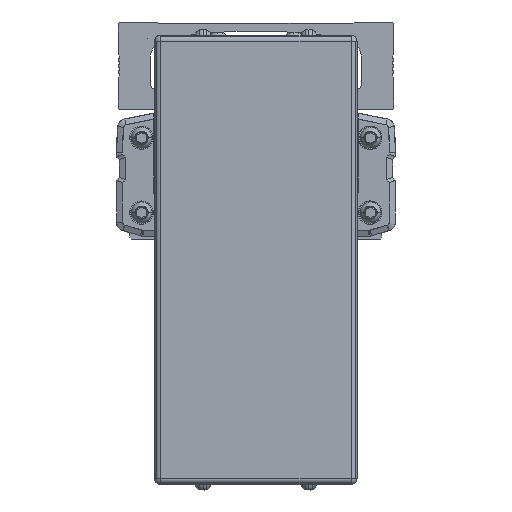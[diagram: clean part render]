
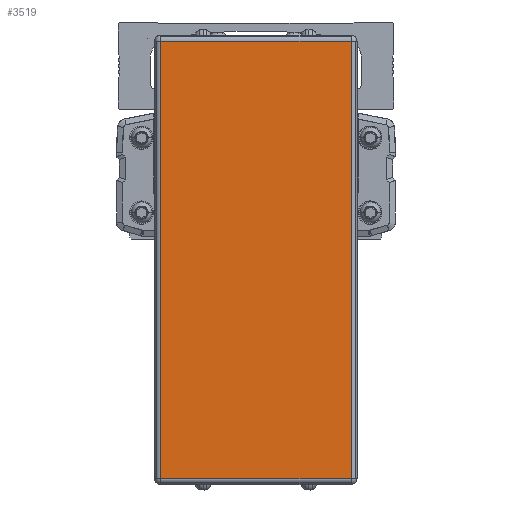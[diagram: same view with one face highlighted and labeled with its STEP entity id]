
A CAD part, front view. The second image highlights one B-rep face of the part: STEP entity #3519.
In plain terms, the highlighted planar face has unit normal (0, -1, 0).
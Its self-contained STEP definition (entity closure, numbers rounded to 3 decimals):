
#3519=ADVANCED_FACE('',(#8458),#8459,.T.);
#8458=FACE_OUTER_BOUND('',#15618,.T.);
#8459=PLANE('',#15619);
#15618=EDGE_LOOP('',(#26492,#26493,#26494,#26495));
#15619=AXIS2_PLACEMENT_3D('',#26496,#26497,#26498);
#26492=ORIENTED_EDGE('',*,*,#42633,.F.);
#26493=ORIENTED_EDGE('',*,*,#42634,.F.);
#26494=ORIENTED_EDGE('',*,*,#42635,.F.);
#26495=ORIENTED_EDGE('',*,*,#42636,.F.);
#26496=CARTESIAN_POINT('',(0.,-189.778,-50.1));
#26497=DIRECTION('',(0.0,-1.0,0.));
#26498=DIRECTION('',(1.0,0.0,0.0));
#42633=EDGE_CURVE('',#51682,#51683,#51684,.T.);
#42634=EDGE_CURVE('',#51685,#51682,#51686,.T.);
#42635=EDGE_CURVE('',#51687,#51685,#51688,.T.);
#42636=EDGE_CURVE('',#51683,#51687,#51689,.T.);
#51682=VERTEX_POINT('',#64689);
#51683=VERTEX_POINT('',#64690);
#51684=LINE('',#64691,#64692);
#51685=VERTEX_POINT('',#64693);
#51686=LINE('',#64694,#64695);
#51687=VERTEX_POINT('',#64696);
#51688=LINE('',#64697,#64698);
#51689=LINE('',#64699,#64700);
#64689=CARTESIAN_POINT('',(32.5,-189.778,24.5));
#64690=CARTESIAN_POINT('',(32.5,-189.778,-124.7));
#64691=CARTESIAN_POINT('',(32.5,-189.778,-50.1));
#64692=VECTOR('',#77990,10.0);
#64693=CARTESIAN_POINT('',(-32.5,-189.778,24.5));
#64694=CARTESIAN_POINT('',(0.,-189.778,24.5));
#64695=VECTOR('',#77991,10.0);
#64696=CARTESIAN_POINT('',(-32.5,-189.778,-124.7));
#64697=CARTESIAN_POINT('',(-32.5,-189.778,-50.1));
#64698=VECTOR('',#77992,10.0);
#64699=CARTESIAN_POINT('',(0.,-189.778,-124.7));
#64700=VECTOR('',#77993,10.0);
#77990=DIRECTION('',(0.0,0.,-1.0));
#77991=DIRECTION('',(1.0,0.0,0.0));
#77992=DIRECTION('',(0.0,0.,1.0));
#77993=DIRECTION('',(-1.0,0.0,0.0));
